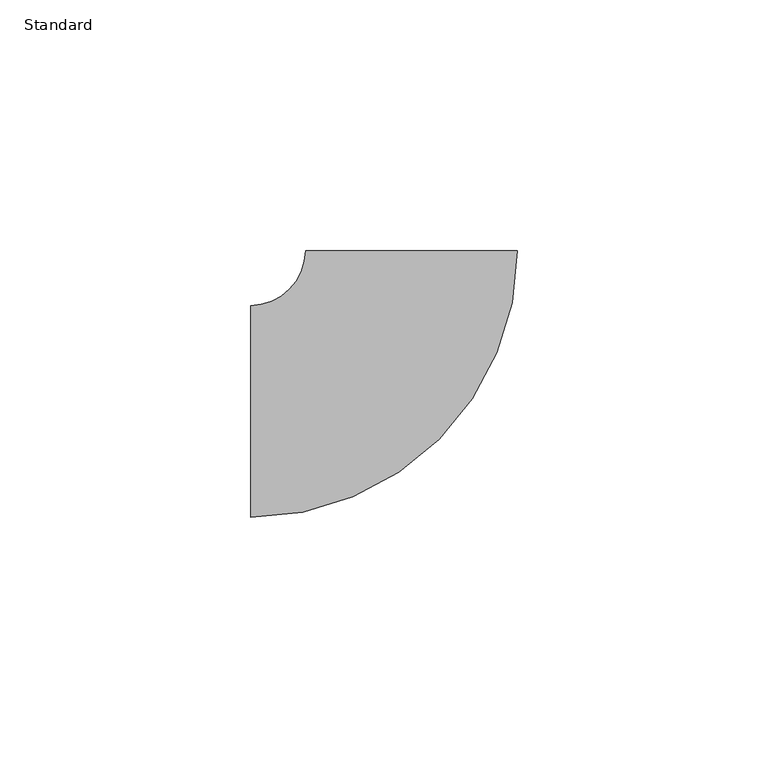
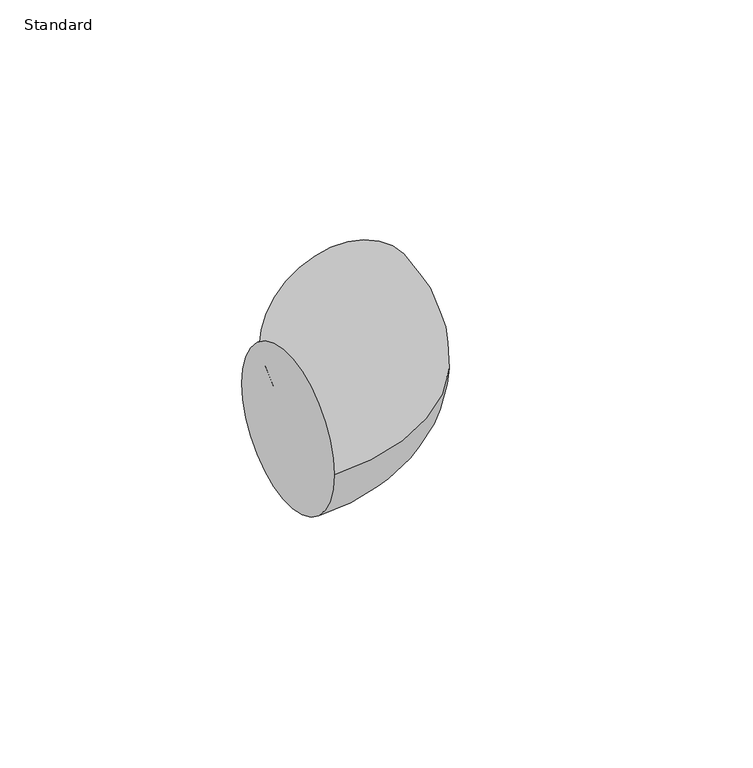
"""IFC4 building model written with IfcOpenShell, lengths in millimetres: pipe fitting geometry, Coude - Générique1 : Standard."""

from ifc_helpers import new_model, si_unit, point, frame, origin, place, context, project, spatial, circle_curve, ellipse_curve, trimmed, source, transform, mapped, element, save
from ifc_brep_helpers import plane_surface, revolved_surface, advanced_brep


def standard_8b2a5564(model_context):
    return source(origin(), model_context, "Body", "AdvancedBrep", [
        advanced_brep(
        [(-32.0, -21.1, 0.0), (-32.0, 21.1, 0.0), (21.1071978, 31.9952528, 0.0), (-21.0928011, 32.0047456, 0.0)],
        [
            (0, 1, circle_curve(frame((-32.0, 0.0, 0.0), z_axis=(-1.0, 0.0, 0.0), x_axis=(0.0, 1.0, 0.0)), 21.1)),
            (1, 0, circle_curve(frame((-32.0, 0.0, 0.0), z_axis=(-1.0, 0.0, 0.0), x_axis=(0.0, 1.0, 0.0)), 21.1)),
            (2, 3, circle_curve(frame((0.0071984, 31.9999992, 0.0), z_axis=(0.00022494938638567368, 0.9999999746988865, 0.0), x_axis=(-0.9999999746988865, 0.00022494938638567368, 0.0)), 21.1)),
            (3, 2, circle_curve(frame((0.0071984, 31.9999992, 0.0), z_axis=(0.00022494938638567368, 0.9999999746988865, 0.0), x_axis=(-0.9999999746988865, 0.00022494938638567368, 0.0)), 21.1)),
            (3, 1, circle_curve(frame((-32.0, 32.0071992, 0.0), z_axis=(0.0, 0.0, -1.0), x_axis=(0.0, -1.0, 0.0)), 10.9071992)),
            (0, 2, circle_curve(frame((-32.0, 32.0071992, 0.0), z_axis=(0.0, 0.0, 1.0), x_axis=(0.0, -1.0, 0.0)), 53.1071992)),
        ],
        [
            plane_surface(frame((-32.0, 0.0, 0.0), z_axis=(-1.0, 0.0, 0.0), x_axis=(0.0, 0.0, 1.0))),
            plane_surface(frame((0.0071984, 31.9999992, 0.0), z_axis=(0.00022494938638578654, 0.9999999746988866, 0.0), x_axis=(0.0, 0.0, 1.0))),
            revolved_surface(trimmed(ellipse_curve(frame((-32.0, 0.0, 0.0), z_axis=(-1.0, 0.0, 0.0), x_axis=(0.0, 1.0, 0.0)), 21.1, 21.1), [point((-32.0, -21.1, 0.0))], [point((-32.0, 21.1, 0.0))], True, "CARTESIAN"), (-32.0, 32.0071992, 0.0), (0.0, 0.0, 1.0)),
            revolved_surface(trimmed(ellipse_curve(frame((-32.0, 0.0, 0.0), z_axis=(-1.0, 0.0, 0.0), x_axis=(0.0, 1.0, 0.0)), 21.1, 21.1), [point((-32.0, 21.1, 0.0))], [point((-32.0, -21.1, 0.0))], True, "CARTESIAN"), (-32.0, 32.0071992, 0.0), (0.0, 0.0, 1.0)),
        ],
        [
            (0, [[1, 2]]),
            (1, [[3, 4]]),
            (2, [[5, -1, 6, -4]]),
            (3, [[-6, -2, -5, -3]]),
        ],
    ),
    ])


if __name__ == "__main__":
    model = new_model("IFC4")
    model_context = context("Model", 3, world=origin())
    ifc_project = project(units=[si_unit("LENGTHUNIT", "METRE", prefix="MILLI")], contexts=[model_context])
    site = spatial("IfcSite", under=ifc_project)
    building = spatial("IfcBuilding", under=site)
    placement = place(None, origin())
    standard_shape = standard_8b2a5564(model_context)
    element("IfcPipeFitting", 1, ObjectType="Coude - Générique1 : Standard", at=placement, inside=building, context=model_context, shape_type="MappedRepresentation", body=[
        mapped(standard_shape, transform((0.0, 0.0, 0.0), x_axis=(1.0, 0.0, 0.0), y_axis=(0.0, 1.0, 0.0), z_axis=(0.0, 0.0, 1.0))),
    ])
    save(model, "model.ifc")
